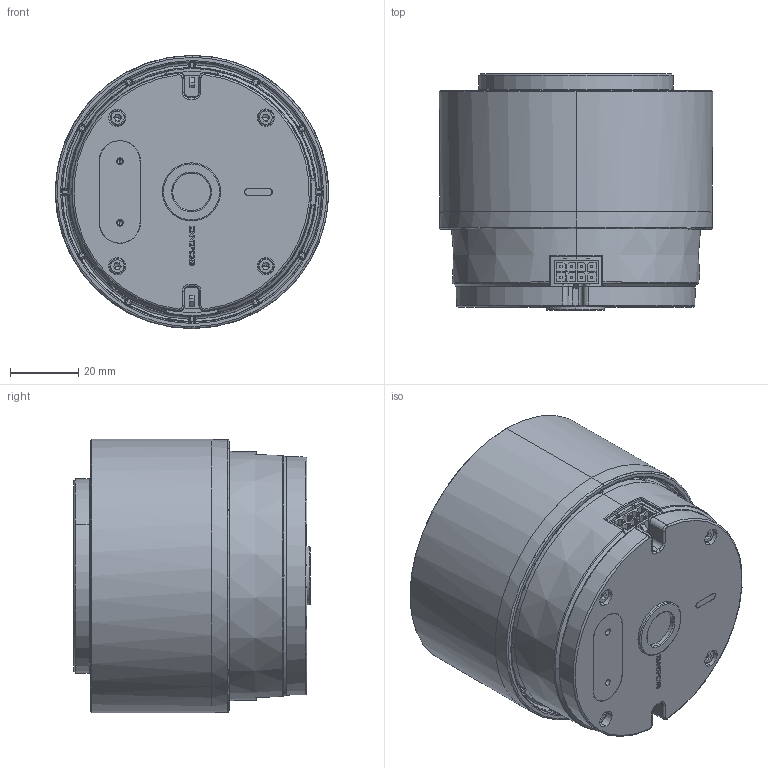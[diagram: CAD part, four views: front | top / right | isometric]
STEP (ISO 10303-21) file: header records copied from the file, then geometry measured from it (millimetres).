
FILE_DESCRIPTION (( 'STEP AP214' ), '1' );
FILE_NAME ('QDD-C-PR60-36_v1_8.STEP', '2019-07-26T06:40:27', ( 'Microsoft' ), ( 'Microsoft' ), 'SwSTEP 2.0', 'SolidWorks 2018', '' );
FILE_SCHEMA (( 'AUTOMOTIVE_DESIGN' ));
Length unit declared in the file: millimetre
Products named in the file (1): QDD-C-PR60-36_v1_8
Bounding box: 80 x 69.3 x 80.01 mm (x, y, z)
Volume: 290275.9 mm3; surface area: 55263.9 mm2
Topology: 15 solids, 15 shells, 1956 faces, 5143 edges, 3282 vertices
Faces by surface type: plane 1136, cylinder 347, cone 186, bspline 171, torus 105, sphere 11
Entity records: 80210 total; most frequent: CARTESIAN_POINT 15312, ORIENTED_EDGE 10224, DIRECTION 9140, EDGE_CURVE 5112, LINE 3332, VECTOR 3332, VERTEX_POINT 3282, AXIS2_PLACEMENT_3D 2904
